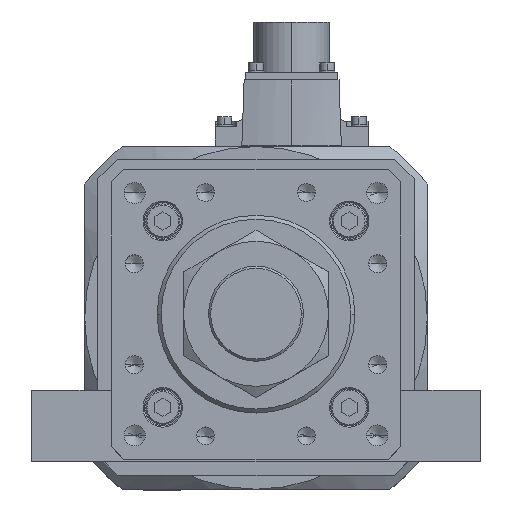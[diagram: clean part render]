
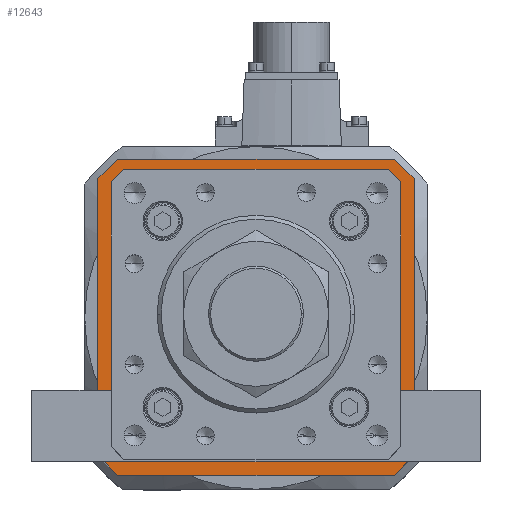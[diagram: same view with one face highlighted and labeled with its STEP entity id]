
A CAD part, top view. The second image highlights one B-rep face of the part: STEP entity #12643.
In plain terms, the highlighted planar face has unit normal (0, 0, 1).
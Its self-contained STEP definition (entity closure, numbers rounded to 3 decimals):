
#603 = LINE ( 'NONE', #34545, #17179 ) ;
#687 = LINE ( 'NONE', #28371, #3911 ) ;
#999 = CARTESIAN_POINT ( 'NONE',  ( 52.5, 60., -119. ) ) ;
#1118 = DIRECTION ( 'NONE',  ( 0., 0., 1. ) ) ;
#1475 = CARTESIAN_POINT ( 'NONE',  ( -53.646, -49.446, -119. ) ) ;
#1599 = EDGE_CURVE ( 'NONE', #34120, #36436, #16095, .T. ) ;
#1831 = EDGE_CURVE ( 'NONE', #24043, #34194, #29957, .T. ) ;
#2006 = DIRECTION ( 'NONE',  ( 0.707, 0.707, 0. ) ) ;
#2558 = CARTESIAN_POINT ( 'NONE',  ( 52.5, -60., -119. ) ) ;
#2714 = CARTESIAN_POINT ( 'NONE',  ( -49.446, 53.646, -119. ) ) ;
#2950 = VERTEX_POINT ( 'NONE', #8788 ) ;
#3533 = CARTESIAN_POINT ( 'NONE',  ( 49.446, -53.646, -119. ) ) ;
#3911 = VECTOR ( 'NONE', #16810, 1000. ) ;
#4392 = VERTEX_POINT ( 'NONE', #21025 ) ;
#5239 = EDGE_LOOP ( 'NONE', ( #16359, #20100, #23984, #18474, #36939, #11311, #37385, #36344 ) ) ;
#5634 = EDGE_CURVE ( 'NONE', #34194, #25738, #38035, .T. ) ;
#6381 = CARTESIAN_POINT ( 'NONE',  ( -60., 52.5, -119. ) ) ;
#7453 = PLANE ( 'NONE',  #23150 ) ;
#7651 = DIRECTION ( 'NONE',  ( -1., 0., 0. ) ) ;
#7698 = CARTESIAN_POINT ( 'NONE',  ( -60., 52.5, -119. ) ) ;
#8788 = CARTESIAN_POINT ( 'NONE',  ( 53.5, 49.593, -119. ) ) ;
#9561 = VERTEX_POINT ( 'NONE', #28480 ) ;
#9666 = CARTESIAN_POINT ( 'NONE',  ( -60., -52.5, -119. ) ) ;
#10422 = DIRECTION ( 'NONE',  ( 1., 0., 0. ) ) ;
#10559 = CARTESIAN_POINT ( 'NONE',  ( 53.646, 49.446, -119. ) ) ;
#10630 = ORIENTED_EDGE ( 'NONE', *, *, #32761, .F. ) ;
#11207 = EDGE_CURVE ( 'NONE', #34262, #24560, #27862, .T. ) ;
#11311 = ORIENTED_EDGE ( 'NONE', *, *, #33917, .T. ) ;
#11495 = LINE ( 'NONE', #27958, #38289 ) ;
#12099 = EDGE_LOOP ( 'NONE', ( #27184, #15294, #16300, #15660, #30849, #10630, #32280, #27623 ) ) ;
#12130 = VECTOR ( 'NONE', #36802, 1000. ) ;
#12510 = DIRECTION ( 'NONE',  ( 1., 0., 0. ) ) ;
#12643 = ADVANCED_FACE ( 'NONE', ( #27803, #34286 ), #7453, .T. ) ;
#13020 = VECTOR ( 'NONE', #12510, 1000. ) ;
#13521 = VECTOR ( 'NONE', #20491, 1000. ) ;
#13988 = CARTESIAN_POINT ( 'NONE',  ( 60., -52.5, -119. ) ) ;
#14067 = DIRECTION ( 'NONE',  ( 0., -1., 0. ) ) ;
#14606 = CARTESIAN_POINT ( 'NONE',  ( -53.5, 49.593, -119. ) ) ;
#14947 = VERTEX_POINT ( 'NONE', #16256 ) ;
#15294 = ORIENTED_EDGE ( 'NONE', *, *, #31634, .F. ) ;
#15533 = VECTOR ( 'NONE', #2006, 1000. ) ;
#15660 = ORIENTED_EDGE ( 'NONE', *, *, #33981, .F. ) ;
#15772 = DIRECTION ( 'NONE',  ( -0.707, -0.707, 0. ) ) ;
#16095 = LINE ( 'NONE', #38102, #29070 ) ;
#16256 = CARTESIAN_POINT ( 'NONE',  ( 53.5, -49.593, -119. ) ) ;
#16300 = ORIENTED_EDGE ( 'NONE', *, *, #11207, .F. ) ;
#16359 = ORIENTED_EDGE ( 'NONE', *, *, #37764, .T. ) ;
#16376 = LINE ( 'NONE', #20026, #17299 ) ;
#16794 = VECTOR ( 'NONE', #25211, 1000. ) ;
#16810 = DIRECTION ( 'NONE',  ( 1., 0., 0. ) ) ;
#17179 = VECTOR ( 'NONE', #34411, 1000. ) ;
#17299 = VECTOR ( 'NONE', #29619, 1000. ) ;
#18474 = ORIENTED_EDGE ( 'NONE', *, *, #38067, .T. ) ;
#20026 = CARTESIAN_POINT ( 'NONE',  ( 60., 52.5, -119. ) ) ;
#20100 = ORIENTED_EDGE ( 'NONE', *, *, #33425, .T. ) ;
#20491 = DIRECTION ( 'NONE',  ( 0.707, 0.707, 0. ) ) ;
#20849 = CARTESIAN_POINT ( 'NONE',  ( -52.5, 60., -119. ) ) ;
#21025 = CARTESIAN_POINT ( 'NONE',  ( 49.593, 53.5, -119. ) ) ;
#21861 = DIRECTION ( 'NONE',  ( -0.707, 0.707, 0. ) ) ;
#22059 = VERTEX_POINT ( 'NONE', #20849 ) ;
#22250 = LINE ( 'NONE', #34730, #29211 ) ;
#22763 = EDGE_CURVE ( 'NONE', #29124, #22846, #33497, .T. ) ;
#22846 = VERTEX_POINT ( 'NONE', #34007 ) ;
#23150 = AXIS2_PLACEMENT_3D ( 'NONE', #30612, #1118, #10422 ) ;
#23321 = CARTESIAN_POINT ( 'NONE',  ( -52.5, 60., -119. ) ) ;
#23777 = VECTOR ( 'NONE', #31028, 1000. ) ;
#23984 = ORIENTED_EDGE ( 'NONE', *, *, #28943, .T. ) ;
#24043 = VERTEX_POINT ( 'NONE', #27117 ) ;
#24128 = EDGE_CURVE ( 'NONE', #22059, #27558, #31049, .T. ) ;
#24439 = VECTOR ( 'NONE', #27136, 1000. ) ;
#24543 = CARTESIAN_POINT ( 'NONE',  ( -53.5, 49.8, -119. ) ) ;
#24560 = VERTEX_POINT ( 'NONE', #6381 ) ;
#25118 = VECTOR ( 'NONE', #21861, 1000. ) ;
#25130 = LINE ( 'NONE', #10559, #30709 ) ;
#25211 = DIRECTION ( 'NONE',  ( -1., 0., 0. ) ) ;
#25591 = CARTESIAN_POINT ( 'NONE',  ( 60., -52.5, -119. ) ) ;
#25738 = VERTEX_POINT ( 'NONE', #32394 ) ;
#27117 = CARTESIAN_POINT ( 'NONE',  ( -53.5, -49.593, -119. ) ) ;
#27136 = DIRECTION ( 'NONE',  ( 0., 1., 0. ) ) ;
#27184 = ORIENTED_EDGE ( 'NONE', *, *, #24128, .F. ) ;
#27471 = LINE ( 'NONE', #3533, #29793 ) ;
#27558 = VERTEX_POINT ( 'NONE', #30188 ) ;
#27623 = ORIENTED_EDGE ( 'NONE', *, *, #32467, .F. ) ;
#27803 = FACE_BOUND ( 'NONE', #5239, .T. ) ;
#27816 = CARTESIAN_POINT ( 'NONE',  ( -49.8, -53.5, -119. ) ) ;
#27862 = LINE ( 'NONE', #7698, #12130 ) ;
#27958 = CARTESIAN_POINT ( 'NONE',  ( 52.5, -60., -119. ) ) ;
#28371 = CARTESIAN_POINT ( 'NONE',  ( 49.8, 53.5, -119. ) ) ;
#28480 = CARTESIAN_POINT ( 'NONE',  ( -52.5, -60., -119. ) ) ;
#28943 = EDGE_CURVE ( 'NONE', #2950, #14947, #22250, .T. ) ;
#29070 = VECTOR ( 'NONE', #14067, 1000. ) ;
#29124 = VERTEX_POINT ( 'NONE', #35498 ) ;
#29211 = VECTOR ( 'NONE', #34977, 1000. ) ;
#29619 = DIRECTION ( 'NONE',  ( 0.707, -0.707, 0. ) ) ;
#29793 = VECTOR ( 'NONE', #15772, 1000. ) ;
#29957 = LINE ( 'NONE', #24543, #24439 ) ;
#30188 = CARTESIAN_POINT ( 'NONE',  ( 52.5, 60., -119. ) ) ;
#30498 = EDGE_CURVE ( 'NONE', #37214, #9561, #11495, .T. ) ;
#30612 = CARTESIAN_POINT ( 'NONE',  ( 0., 0., -119. ) ) ;
#30709 = VECTOR ( 'NONE', #31222, 1000. ) ;
#30849 = ORIENTED_EDGE ( 'NONE', *, *, #30498, .F. ) ;
#31028 = DIRECTION ( 'NONE',  ( -0.707, -0.707, 0. ) ) ;
#31049 = LINE ( 'NONE', #999, #13020 ) ;
#31222 = DIRECTION ( 'NONE',  ( 0.707, -0.707, 0. ) ) ;
#31288 = LINE ( 'NONE', #23321, #15533 ) ;
#31634 = EDGE_CURVE ( 'NONE', #24560, #22059, #31288, .T. ) ;
#32280 = ORIENTED_EDGE ( 'NONE', *, *, #1599, .F. ) ;
#32394 = CARTESIAN_POINT ( 'NONE',  ( -49.593, 53.5, -119. ) ) ;
#32467 = EDGE_CURVE ( 'NONE', #27558, #34120, #16376, .T. ) ;
#32761 = EDGE_CURVE ( 'NONE', #36436, #37214, #34435, .T. ) ;
#33425 = EDGE_CURVE ( 'NONE', #4392, #2950, #25130, .T. ) ;
#33497 = LINE ( 'NONE', #27816, #16794 ) ;
#33917 = EDGE_CURVE ( 'NONE', #22846, #24043, #36709, .T. ) ;
#33981 = EDGE_CURVE ( 'NONE', #9561, #34262, #603, .T. ) ;
#34007 = CARTESIAN_POINT ( 'NONE',  ( -49.593, -53.5, -119. ) ) ;
#34120 = VERTEX_POINT ( 'NONE', #38263 ) ;
#34194 = VERTEX_POINT ( 'NONE', #14606 ) ;
#34262 = VERTEX_POINT ( 'NONE', #9666 ) ;
#34286 = FACE_OUTER_BOUND ( 'NONE', #12099, .T. ) ;
#34411 = DIRECTION ( 'NONE',  ( -0.707, 0.707, 0. ) ) ;
#34435 = LINE ( 'NONE', #25591, #23777 ) ;
#34545 = CARTESIAN_POINT ( 'NONE',  ( -52.5, -60., -119. ) ) ;
#34730 = CARTESIAN_POINT ( 'NONE',  ( 53.5, -49.8, -119. ) ) ;
#34977 = DIRECTION ( 'NONE',  ( 0., -1., 0. ) ) ;
#35498 = CARTESIAN_POINT ( 'NONE',  ( 49.593, -53.5, -119. ) ) ;
#36344 = ORIENTED_EDGE ( 'NONE', *, *, #5634, .T. ) ;
#36436 = VERTEX_POINT ( 'NONE', #13988 ) ;
#36709 = LINE ( 'NONE', #1475, #25118 ) ;
#36802 = DIRECTION ( 'NONE',  ( 0., 1., 0. ) ) ;
#36939 = ORIENTED_EDGE ( 'NONE', *, *, #22763, .T. ) ;
#37214 = VERTEX_POINT ( 'NONE', #2558 ) ;
#37385 = ORIENTED_EDGE ( 'NONE', *, *, #1831, .T. ) ;
#37764 = EDGE_CURVE ( 'NONE', #25738, #4392, #687, .T. ) ;
#38035 = LINE ( 'NONE', #2714, #13521 ) ;
#38067 = EDGE_CURVE ( 'NONE', #14947, #29124, #27471, .T. ) ;
#38102 = CARTESIAN_POINT ( 'NONE',  ( 60., 52.5, -119. ) ) ;
#38263 = CARTESIAN_POINT ( 'NONE',  ( 60., 52.5, -119. ) ) ;
#38289 = VECTOR ( 'NONE', #7651, 1000. ) ;
